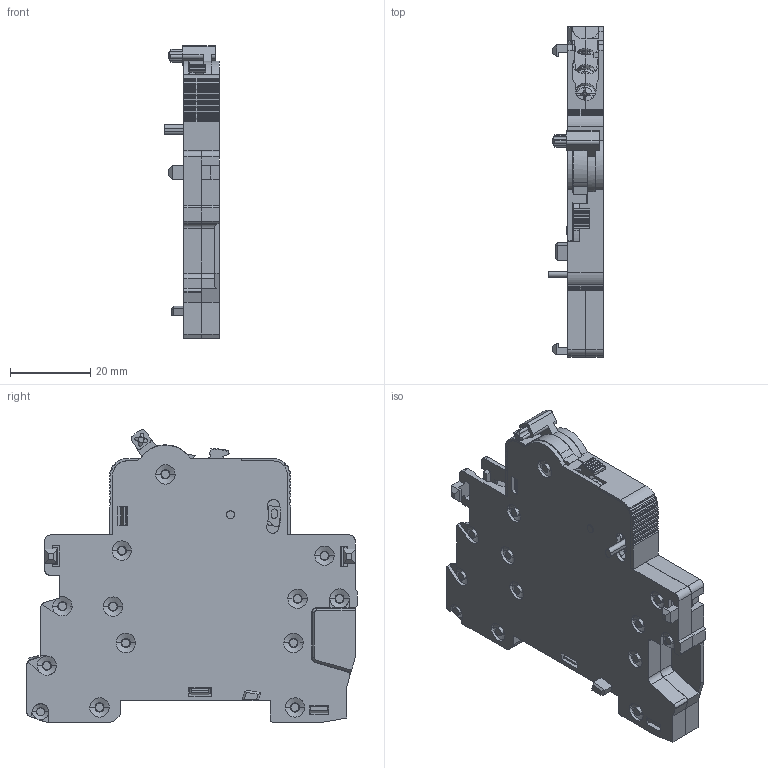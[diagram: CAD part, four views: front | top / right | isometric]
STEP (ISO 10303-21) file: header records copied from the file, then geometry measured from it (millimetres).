
FILE_DESCRIPTION (( 'STEP AP214' ), '1' );
FILE_NAME ('TGB1N-SD.STEP', '2025-12-15T12:50:05', ( '' ), ( '' ), 'SwSTEP 2.0', 'SolidWorks 2024', '' );
FILE_SCHEMA (( 'AUTOMOTIVE_DESIGN' ));
Length unit declared in the file: millimetre
Products named in the file (4): TGB1N-SD; 144.stp; TGB1N-SD.stp; ASM0001_SW0001.stp
Assembly tree (3 placements, depth 3):
  TGB1N-SD
    TGB1N-SD.stp
      ASM0001_SW0001.stp
      144.stp
Bounding box: 13.65 x 82.2 x 72.78 mm (x, y, z)
Volume: 10954.3 mm3; surface area: 31061.9 mm2
Topology: 4 solids, 5 shells, 2264 faces, 6543 edges, 4325 vertices
Faces by surface type: plane 1394, cylinder 697, cone 85, bspline 74, torus 14
Entity records: 85596 total; most frequent: CARTESIAN_POINT 30089, ORIENTED_EDGE 13044, DIRECTION 9503, EDGE_CURVE 6543, VERTEX_POINT 4325, AXIS2_PLACEMENT_3D 3347, VECTOR 2809, LINE 2809
